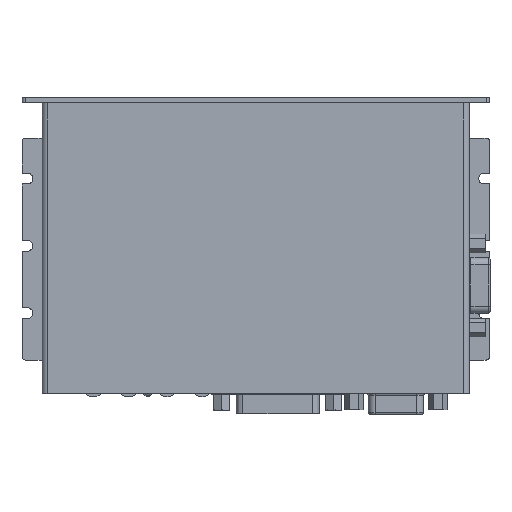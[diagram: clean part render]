
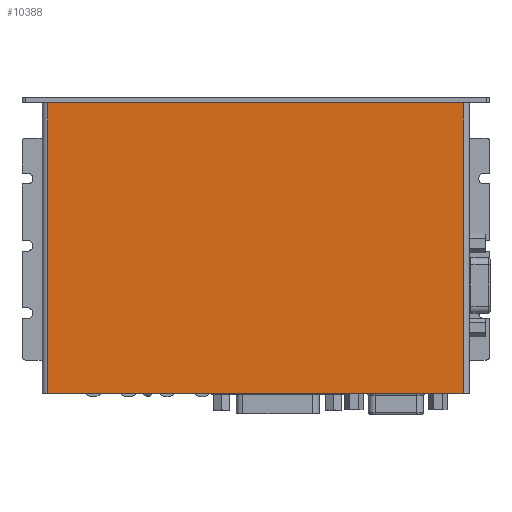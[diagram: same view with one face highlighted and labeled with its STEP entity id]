
A CAD part, top view. The second image highlights one B-rep face of the part: STEP entity #10388.
In plain terms, the highlighted planar face has unit normal (0, 0, 1) as drawn and (0, -1, 0) by its records, which use the part's own axes.
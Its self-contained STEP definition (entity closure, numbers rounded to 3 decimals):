
#2492 = ORIENTED_EDGE ( 'NONE', *, *, #41314, .F. ) ;
#3589 = ORIENTED_EDGE ( 'NONE', *, *, #87835, .F. ) ;
#4199 = CARTESIAN_POINT ( 'NONE',  ( 124.4, -1., 0. ) ) ;
#5187 = CARTESIAN_POINT ( 'NONE',  ( 0., -1., 0. ) ) ;
#10388 = ADVANCED_FACE ( 'NONE', ( #20626 ), #102035, .F. ) ;
#10393 = LINE ( 'NONE', #112033, #30244 ) ;
#11769 = VECTOR ( 'NONE', #42121, 1000. ) ;
#12434 = CARTESIAN_POINT ( 'NONE',  ( 0.6, -1., 86.4 ) ) ;
#14994 = DIRECTION ( 'NONE',  ( 1., 0., 0. ) ) ;
#20626 = FACE_OUTER_BOUND ( 'NONE', #46957, .T. ) ;
#28119 = VERTEX_POINT ( 'NONE', #95596 ) ;
#28270 = LINE ( 'NONE', #5187, #77051 ) ;
#28898 = VERTEX_POINT ( 'NONE', #4199 ) ;
#30244 = VECTOR ( 'NONE', #92860, 1000. ) ;
#30262 = EDGE_CURVE ( 'NONE', #51635, #72971, #63603, .T. ) ;
#40767 = EDGE_CURVE ( 'NONE', #72971, #28898, #28270, .T. ) ;
#41314 = EDGE_CURVE ( 'NONE', #28119, #28898, #47893, .T. ) ;
#42121 = DIRECTION ( 'NONE',  ( 0., 0., -1. ) ) ;
#46957 = EDGE_LOOP ( 'NONE', ( #112804, #2492, #3589, #111751 ) ) ;
#47893 = LINE ( 'NONE', #81763, #93556 ) ;
#51635 = VERTEX_POINT ( 'NONE', #12434 ) ;
#53490 = DIRECTION ( 'NONE',  ( 0., 0., 1. ) ) ;
#54907 = AXIS2_PLACEMENT_3D ( 'NONE', #101201, #111814, #53490 ) ;
#63603 = LINE ( 'NONE', #119607, #11769 ) ;
#72971 = VERTEX_POINT ( 'NONE', #122978 ) ;
#77051 = VECTOR ( 'NONE', #14994, 1000. ) ;
#81763 = CARTESIAN_POINT ( 'NONE',  ( 124.4, -1., 86.4 ) ) ;
#87835 = EDGE_CURVE ( 'NONE', #51635, #28119, #10393, .T. ) ;
#92860 = DIRECTION ( 'NONE',  ( 1., 0., 0. ) ) ;
#93556 = VECTOR ( 'NONE', #111156, 1000. ) ;
#95596 = CARTESIAN_POINT ( 'NONE',  ( 124.4, -1., 86.4 ) ) ;
#101201 = CARTESIAN_POINT ( 'NONE',  ( 0., -1., 86.4 ) ) ;
#102035 = PLANE ( 'NONE',  #54907 ) ;
#111156 = DIRECTION ( 'NONE',  ( 0., 0., -1. ) ) ;
#111751 = ORIENTED_EDGE ( 'NONE', *, *, #30262, .T. ) ;
#111814 = DIRECTION ( 'NONE',  ( 0., 1., 0. ) ) ;
#112033 = CARTESIAN_POINT ( 'NONE',  ( 0., -1., 86.4 ) ) ;
#112804 = ORIENTED_EDGE ( 'NONE', *, *, #40767, .T. ) ;
#119607 = CARTESIAN_POINT ( 'NONE',  ( 0.6, -1., 86.4 ) ) ;
#122978 = CARTESIAN_POINT ( 'NONE',  ( 0.6, -1., 0. ) ) ;
